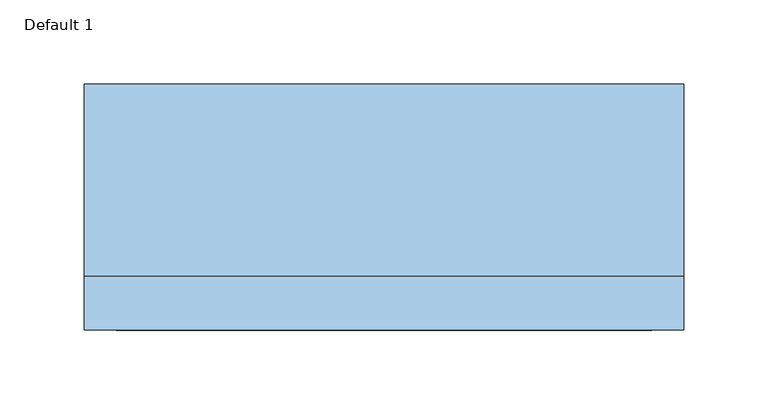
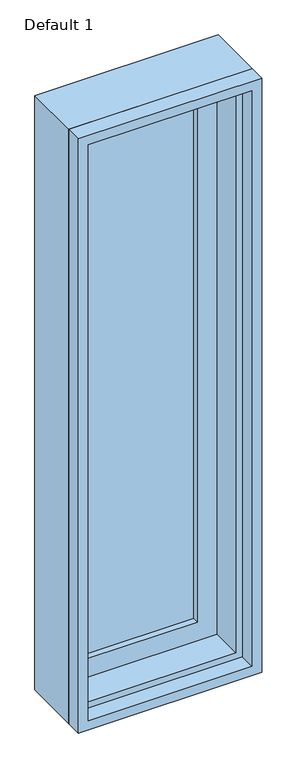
"""IFC4 building model written with IfcOpenShell, lengths in millimetres: window geometry, Planitar-Casement-Single_Left : Default 1."""

from ifc_helpers import new_model, si_unit, frame, origin, place, context, project, spatial, polyline, outline, extrude, faceted_brep, source, transform, mapped, element, save


def default_1_126ee384(model_context):
    return source(origin(), model_context, "Body", "SolidModel", [
        extrude(outline(polyline([(107.95, 63.5), (107.95, 57.15), (-107.95, 57.15), (-107.95, 63.5), (107.95, 63.5)])), frame((0.0, 0.0, 984.25), z_axis=(0.0, 0.0, 1.0), x_axis=(1.0, 0.0, 0.0)), (0.0, 0.0, 1.0), 1079.5),
        extrude(outline(polyline([(-107.95, 44.45), (-107.95, 50.8), (107.95, 50.8), (107.95, 44.45), (-107.95, 44.45)])), frame((0.0, 0.0, 984.25), z_axis=(0.0, 0.0, 1.0), x_axis=(1.0, 0.0, 0.0)), (0.0, 0.0, 1.0), 1079.5),
        extrude(outline(polyline([(2120.9, -165.1), (927.1, -165.1), (927.1, 165.1), (2120.9, 165.1), (2120.9, -165.1)]), holes=[polyline([(2063.75, 107.95), (984.25, 107.95), (984.25, -107.95), (2063.75, -107.95), (2063.75, 107.95)])]), frame((0.0, 31.75, 0.0), z_axis=(0.0, 1.0, 0.0), x_axis=(0.0, 0.0, 1.0)), (0.0, 0.0, 1.0), 44.45),
        extrude(outline(polyline([(2133.6, -177.8), (914.4, -177.8), (914.4, 177.8), (2133.6, 177.8), (2133.6, -177.8)]), holes=[polyline([(2114.55, 158.75), (933.45, 158.75), (933.45, -158.75), (2114.55, -158.75), (2114.55, 158.75)])]), frame((0.0, -63.5, 0.0), z_axis=(0.0, 1.0, 0.0), x_axis=(0.0, 0.0, 1.0)), (0.0, 0.0, 1.0), 31.75),
        faceted_brep([(146.05, 31.75, 2101.85), (146.05, -31.75, 2101.85), (-146.05, -31.75, 2101.85), (-146.05, 31.75, 2101.85), (165.1, 82.55, 2120.9), (165.1, 31.75, 2120.9), (-165.1, 31.75, 2120.9), (-165.1, 82.55, 2120.9), (177.8, -31.75, 2133.6), (177.8, 82.55, 2133.6), (-177.8, 82.55, 2133.6), (-177.8, -31.75, 2133.6), (-146.05, -31.75, 946.15), (-146.05, 31.75, 946.15), (-165.1, 31.75, 927.1), (-165.1, 82.55, 927.1), (-177.8, 82.55, 914.4), (-177.8, -31.75, 914.4), (146.05, -31.75, 946.15), (146.05, 31.75, 946.15), (165.1, 31.75, 927.1), (165.1, 82.55, 927.1), (177.8, 82.55, 914.4), (177.8, -31.75, 914.4)], [[[0, 1, 2, 3]], [[4, 5, 6, 7]], [[8, 9, 10, 11]], [[3, 2, 12, 13]], [[7, 6, 14, 15]], [[11, 10, 16, 17]], [[13, 12, 18, 19]], [[15, 14, 20, 21]], [[17, 16, 22, 23]], [[11, 17, 23, 8], [1, 18, 12, 2]], [[19, 18, 1, 0]], [[5, 20, 14, 6], [3, 13, 19, 0]], [[21, 20, 5, 4]], [[23, 22, 9, 8]], [[9, 22, 16, 10], [7, 15, 21, 4]]]),
    ])


if __name__ == "__main__":
    model = new_model("IFC4")
    model_context = context("Model", 3, world=origin())
    ifc_project = project(units=[si_unit("LENGTHUNIT", "METRE", prefix="MILLI")], contexts=[model_context])
    site = spatial("IfcSite", under=ifc_project)
    building = spatial("IfcBuilding", under=site)
    placement = place(None, origin())
    default_1_shape = default_1_126ee384(model_context)
    element("IfcWindow", 1, ObjectType="Planitar-Casement-Single_Left : Default 1", at=placement, inside=building, context=model_context, shape_type="MappedRepresentation", body=[
        mapped(default_1_shape, transform((0.0, 0.0, 0.0), x_axis=(1.0, 0.0, 0.0), y_axis=(0.0, 1.0, 0.0), z_axis=(0.0, 0.0, 1.0))),
    ])
    save(model, "model.ifc")
